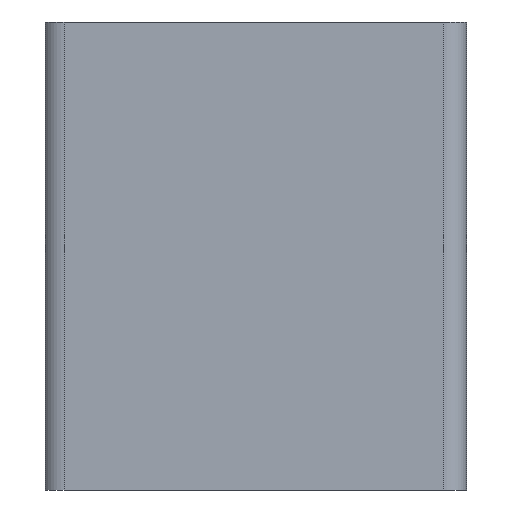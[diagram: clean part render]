
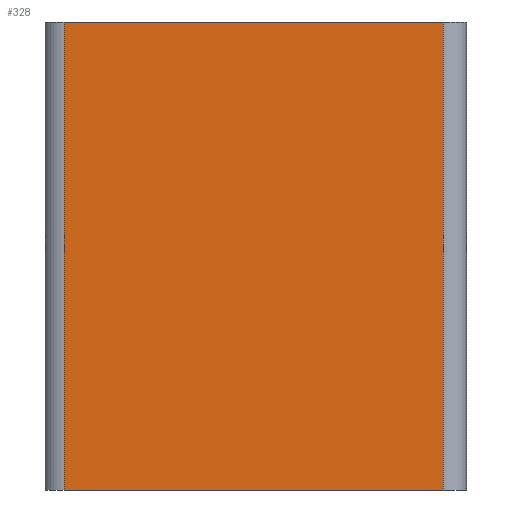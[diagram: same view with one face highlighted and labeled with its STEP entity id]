
A CAD part, left-side view. The second image highlights one B-rep face of the part: STEP entity #328.
In plain terms, the highlighted planar face has unit normal (-1, 0, 0).
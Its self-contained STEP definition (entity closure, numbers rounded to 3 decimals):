
#157=CARTESIAN_POINT('',(0.0,86.0,0.0));
#158=VERTEX_POINT('',#157);
#168=CARTESIAN_POINT('',(0.0,86.0,100.0));
#169=VERTEX_POINT('',#168);
#170=CARTESIAN_POINT('',(0.0,86.0,0.0));
#171=DIRECTION('',(0.0,0.0,1.0));
#172=VECTOR('',#171,100.0);
#173=LINE('',#170,#172);
#174=EDGE_CURVE('',#158,#169,#173,.T.);
#298=CARTESIAN_POINT('',(0.0,0.0,0.0));
#299=DIRECTION('',(-1.0,0.0,0.0));
#300=DIRECTION('',(0.0,0.0,1.0));
#301=AXIS2_PLACEMENT_3D('',#298,#299,#300);
#302=PLANE('',#301);
#303=ORIENTED_EDGE('',*,*,#174,.F.);
#304=CARTESIAN_POINT('',(0.0,5.,0.0));
#305=VERTEX_POINT('',#304);
#306=CARTESIAN_POINT('',(0.0,5.,0.0));
#307=DIRECTION('',(0.0,1.0,0.0));
#308=VECTOR('',#307,81.0);
#309=LINE('',#306,#308);
#310=EDGE_CURVE('',#305,#158,#309,.T.);
#311=ORIENTED_EDGE('',*,*,#310,.F.);
#312=CARTESIAN_POINT('',(0.0,5.,100.0));
#313=VERTEX_POINT('',#312);
#314=CARTESIAN_POINT('',(0.0,5.,100.0));
#315=DIRECTION('',(0.0,0.0,-1.0));
#316=VECTOR('',#315,100.0);
#317=LINE('',#314,#316);
#318=EDGE_CURVE('',#313,#305,#317,.T.);
#319=ORIENTED_EDGE('',*,*,#318,.F.);
#320=CARTESIAN_POINT('',(0.0,5.,100.0));
#321=DIRECTION('',(0.0,1.0,0.0));
#322=VECTOR('',#321,81.0);
#323=LINE('',#320,#322);
#324=EDGE_CURVE('',#313,#169,#323,.T.);
#325=ORIENTED_EDGE('',*,*,#324,.T.);
#326=EDGE_LOOP('',(#303,#311,#319,#325));
#327=FACE_OUTER_BOUND('',#326,.T.);
#328=ADVANCED_FACE('',(#327),#302,.T.);
